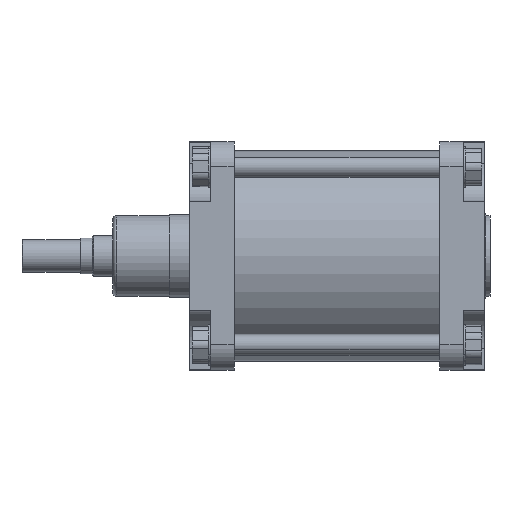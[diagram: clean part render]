
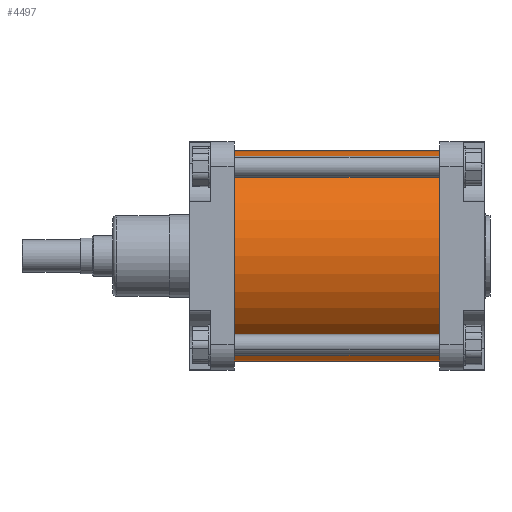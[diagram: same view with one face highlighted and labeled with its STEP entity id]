
A CAD part, top view. The second image highlights one B-rep face of the part: STEP entity #4497.
In plain terms, the highlighted cylindrical face has radius 130 mm (diameter 260 mm), a partial arc.
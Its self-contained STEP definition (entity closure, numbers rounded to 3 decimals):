
#2427=CARTESIAN_POINT('Vertex',(-50.,-130.,0.)) ;
#2429=CARTESIAN_POINT('Vertex',(-50.,130.,0.)) ;
#2432=CARTESIAN_POINT('Axis2P3D Location',(-50.,0.,0.)) ;
#4467=CARTESIAN_POINT('Axis2P3D Location',(77.,0.,0.)) ;
#4472=CARTESIAN_POINT('Line Origine',(77.,130.,0.)) ;
#4476=CARTESIAN_POINT('Vertex',(204.,130.,0.)) ;
#4479=CARTESIAN_POINT('Line Origine',(77.,-130.,0.)) ;
#4483=CARTESIAN_POINT('Vertex',(204.,-130.,0.)) ;
#4486=CARTESIAN_POINT('Axis2P3D Location',(204.,0.,0.)) ;
#2433=DIRECTION('Axis2P3D Direction',(-1.,0.,0.)) ;
#4468=DIRECTION('Axis2P3D Direction',(1.,-0.,0.)) ;
#4469=DIRECTION('Axis2P3D XDirection',(0.,1.,0.)) ;
#4473=DIRECTION('Vector Direction',(1.,0.,0.)) ;
#4480=DIRECTION('Vector Direction',(1.,0.,0.)) ;
#4487=DIRECTION('Axis2P3D Direction',(1.,-0.,0.)) ;
#2434=AXIS2_PLACEMENT_3D('Circle Axis2P3D',#2432,#2433,$) ;
#4470=AXIS2_PLACEMENT_3D('Cylinder Axis2P3D',#4467,#4468,#4469) ;
#4488=AXIS2_PLACEMENT_3D('Circle Axis2P3D',#4486,#4487,$) ;
#4492=ORIENTED_EDGE('',*,*,#4478,.F.) ;
#4493=ORIENTED_EDGE('',*,*,#2436,.T.) ;
#4494=ORIENTED_EDGE('',*,*,#4485,.T.) ;
#4495=ORIENTED_EDGE('',*,*,#4490,.F.) ;
#4474=VECTOR('Line Direction',#4473,1.) ;
#4481=VECTOR('Line Direction',#4480,1.) ;
#4497=ADVANCED_FACE('PartBody',(#4496),#4471,.T.) ;
#2435=CIRCLE('generated circle',#2434,130.) ;
#4489=CIRCLE('generated circle',#4488,130.) ;
#4471=CYLINDRICAL_SURFACE('generated cylinder',#4470,130.) ;
#2436=EDGE_CURVE('',#2430,#2428,#2435,.F.) ;
#4478=EDGE_CURVE('',#2430,#4477,#4475,.T.) ;
#4485=EDGE_CURVE('',#2428,#4484,#4482,.T.) ;
#4490=EDGE_CURVE('',#4477,#4484,#4489,.T.) ;
#4491=EDGE_LOOP('',(#4492,#4493,#4494,#4495)) ;
#4496=FACE_OUTER_BOUND('',#4491,.T.) ;
#4475=LINE('Line',#4472,#4474) ;
#4482=LINE('Line',#4479,#4481) ;
#2428=VERTEX_POINT('',#2427) ;
#2430=VERTEX_POINT('',#2429) ;
#4477=VERTEX_POINT('',#4476) ;
#4484=VERTEX_POINT('',#4483) ;
